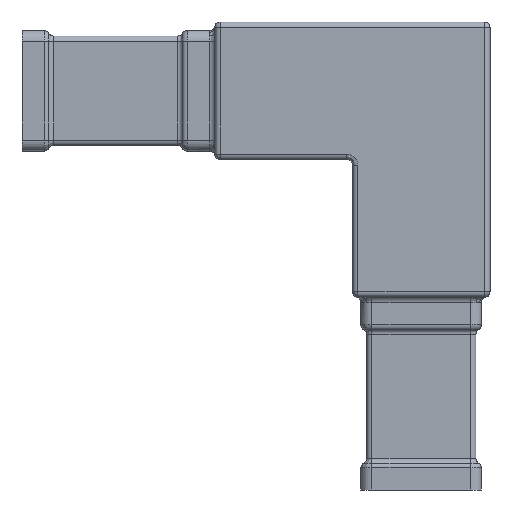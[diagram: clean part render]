
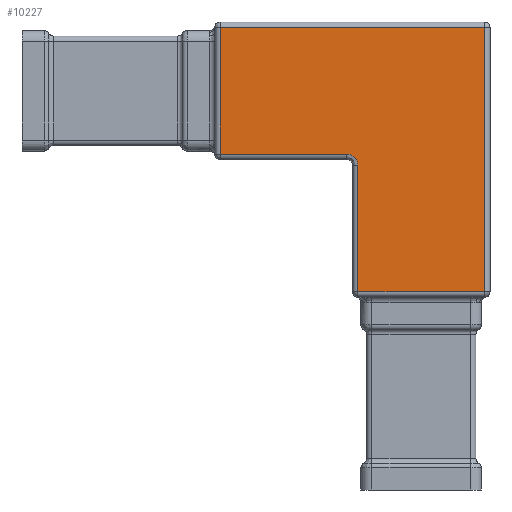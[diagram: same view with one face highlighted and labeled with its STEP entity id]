
A CAD part, left-side view. The second image highlights one B-rep face of the part: STEP entity #10227.
In plain terms, the highlighted planar face has unit normal (-1, 0, 0).
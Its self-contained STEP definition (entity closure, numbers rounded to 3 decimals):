
#202 = CARTESIAN_POINT ( 'NONE',  ( 0., 24., -26. ) ) ;
#380 = DIRECTION ( 'NONE',  ( 0., -1., 0. ) ) ;
#407 = ORIENTED_EDGE ( 'NONE', *, *, #6744, .F. ) ;
#527 = VECTOR ( 'NONE', #7048, 1000. ) ;
#571 = ORIENTED_EDGE ( 'NONE', *, *, #1590, .F. ) ;
#851 = VERTEX_POINT ( 'NONE', #9655 ) ;
#892 = DIRECTION ( 'NONE',  ( 0., 0., 1. ) ) ;
#1020 = CARTESIAN_POINT ( 'NONE',  ( 0., 24.828, -24. ) ) ;
#1029 = DIRECTION ( 'NONE',  ( 1., 0., 0. ) ) ;
#1590 = EDGE_CURVE ( 'NONE', #851, #1750, #4521, .T. ) ;
#1750 = VERTEX_POINT ( 'NONE', #6920 ) ;
#1839 = CARTESIAN_POINT ( 'NONE',  ( 0., 24., -26. ) ) ;
#1858 = VECTOR ( 'NONE', #380, 1000. ) ;
#2147 = VERTEX_POINT ( 'NONE', #2334 ) ;
#2334 = CARTESIAN_POINT ( 'NONE',  ( 0., 24., -49. ) ) ;
#2641 = DIRECTION ( 'NONE',  ( 0., 0., 1. ) ) ;
#2742 = CARTESIAN_POINT ( 'NONE',  ( 0., 25., -24. ) ) ;
#2869 = EDGE_LOOP ( 'NONE', ( #10711, #571, #9350, #7276, #7308, #10523, #407 ) ) ;
#3649 = CARTESIAN_POINT ( 'NONE',  ( 0., 49., 0. ) ) ;
#3750 = CARTESIAN_POINT ( 'NONE',  ( 0., 49., -1. ) ) ;
#4443 = CARTESIAN_POINT ( 'NONE',  ( 0., 1., -1. ) ) ;
#4521 = LINE ( 'NONE', #2742, #527 ) ;
#4545 = DIRECTION ( 'NONE',  ( 0., 0., -1. ) ) ;
#4641 = EDGE_CURVE ( 'NONE', #1750, #7959, #6175, .T. ) ;
#4743 = LINE ( 'NONE', #8233, #1858 ) ;
#4776 = VECTOR ( 'NONE', #7004, 1000. ) ;
#5326 = CARTESIAN_POINT ( 'NONE',  ( 0., 26., -24. ) ) ;
#5349 = VECTOR ( 'NONE', #2641, 1000. ) ;
#5389 = VERTEX_POINT ( 'NONE', #202 ) ;
#5395 = FACE_OUTER_BOUND ( 'NONE', #2869, .T. ) ;
#5937 = EDGE_CURVE ( 'NONE', #6566, #7872, #6836, .T. ) ;
#6112 = CARTESIAN_POINT ( 'NONE',  ( 0., 1., -49. ) ) ;
#6153 = CARTESIAN_POINT ( 'NONE',  ( 0., 25., 0. ) ) ;
#6175 = LINE ( 'NONE', #3649, #9320 ) ;
#6314 = CARTESIAN_POINT ( 'NONE',  ( 0., 24., -24.828 ) ) ;
#6566 = VERTEX_POINT ( 'NONE', #4443 ) ;
#6744 = EDGE_CURVE ( 'NONE', #7959, #6566, #4743, .T. ) ;
#6836 = LINE ( 'NONE', #8535, #4776 ) ;
#6920 = CARTESIAN_POINT ( 'NONE',  ( 0., 49., -24. ) ) ;
#7004 = DIRECTION ( 'NONE',  ( 0., 0., -1. ) ) ;
#7048 = DIRECTION ( 'NONE',  ( 0., 1., 0. ) ) ;
#7054 = LINE ( 'NONE', #10544, #5349 ) ;
#7276 = ORIENTED_EDGE ( 'NONE', *, *, #10491, .F. ) ;
#7308 = ORIENTED_EDGE ( 'NONE', *, *, #10378, .F. ) ;
#7872 = VERTEX_POINT ( 'NONE', #6112 ) ;
#7959 = VERTEX_POINT ( 'NONE', #3750 ) ;
#8233 = CARTESIAN_POINT ( 'NONE',  ( 0., 25., -1. ) ) ;
#8465 = VECTOR ( 'NONE', #11075, 1000. ) ;
#8488 = CARTESIAN_POINT ( 'NONE',  ( 0., 25., -49. ) ) ;
#8535 = CARTESIAN_POINT ( 'NONE',  ( 0., 1., 0. ) ) ;
#8583 = LINE ( 'NONE', #8488, #8465 ) ;
#8884 = PLANE ( 'NONE',  #10484 ) ;
#9320 = VECTOR ( 'NONE', #892, 1000. ) ;
#9350 = ORIENTED_EDGE ( 'NONE', *, *, #11300, .F. ) ;
#9655 = CARTESIAN_POINT ( 'NONE',  ( 0., 26., -24. ) ) ;
#10227 = ADVANCED_FACE ( 'NONE', ( #5395 ), #8884, .F. ) ;
#10378 = EDGE_CURVE ( 'NONE', #7872, #2147, #8583, .T. ) ;
#10484 = AXIS2_PLACEMENT_3D ( 'NONE', #6153, #1029, #4545 ) ;
#10491 = EDGE_CURVE ( 'NONE', #2147, #5389, #7054, .T. ) ;
#10523 = ORIENTED_EDGE ( 'NONE', *, *, #5937, .F. ) ;
#10544 = CARTESIAN_POINT ( 'NONE',  ( 0., 24., 0. ) ) ;
#10711 = ORIENTED_EDGE ( 'NONE', *, *, #4641, .F. ) ;
#10995 =( BOUNDED_CURVE ( )  B_SPLINE_CURVE ( 3, ( #1839, #6314, #1020, #5326 ),
 .UNSPECIFIED., .F., .T. ) 
 B_SPLINE_CURVE_WITH_KNOTS ( ( 4, 4 ),
 ( 0., 1. ),
 .UNSPECIFIED. ) 
 CURVE ( )  GEOMETRIC_REPRESENTATION_ITEM ( )  RATIONAL_B_SPLINE_CURVE ( ( 1., 0.805, 0.805, 1. ) ) 
 REPRESENTATION_ITEM ( '' )  );
#11075 = DIRECTION ( 'NONE',  ( 0., 1., 0. ) ) ;
#11300 = EDGE_CURVE ( 'NONE', #5389, #851, #10995, .T. ) ;
